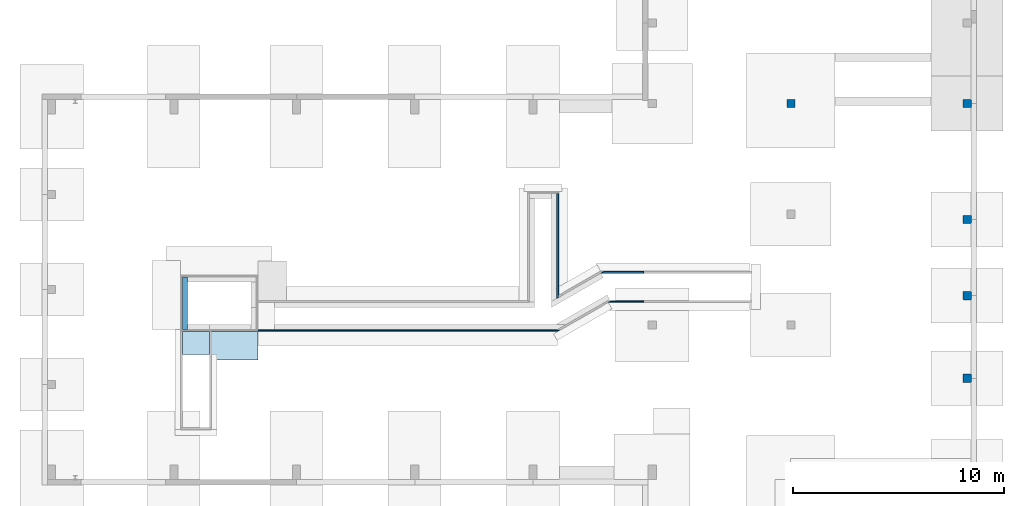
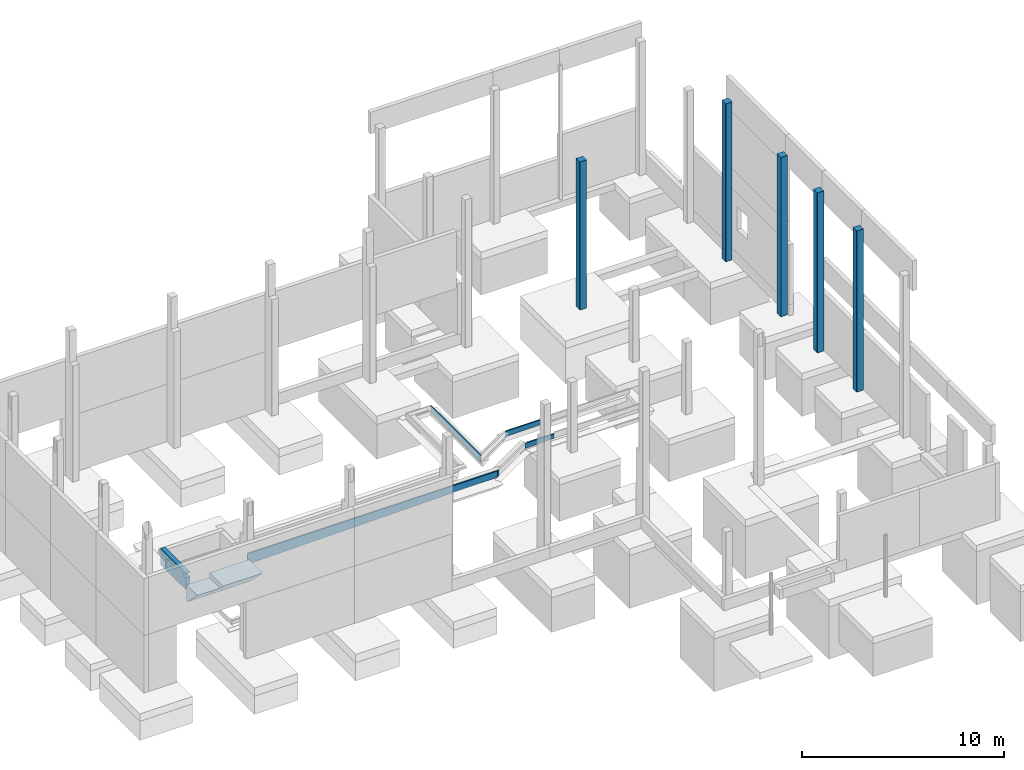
# One storey, part 12 of 12: 5 columns, 5 walls, 1 slab.
"""IFC4X3_ADD2 building model written with IfcOpenShell, lengths in millimetres."""

from ifc_helpers import new_model, si_unit, direction, frame, origin_with_axes, place, context, subcontext, project, spatial, polygons, element, save


model = new_model("IFC4X3_ADD2")

# Units and contexts
model_context = context("Model", 3, precision=1e-05, world=origin_with_axes(), true_north=direction((0.0, 1.0)))
body_context = subcontext(model_context, "Body", "Model", "MODEL_VIEW")
ifc_project = project(units=[si_unit("LENGTHUNIT", "METRE", prefix="MILLI"), si_unit("AREAUNIT", "SQUARE_METRE"), si_unit("VOLUMEUNIT", "CUBIC_METRE"), si_unit("PLANEANGLEUNIT", "RADIAN"), si_unit("TIMEUNIT", "SECOND"), si_unit("MASSUNIT", "GRAM")], contexts=[model_context])

# Site, building, storey
site_placement = place(None, origin_with_axes())
site = spatial("IfcSite", under=ifc_project, at=site_placement, Name="Site", CompositionType="ELEMENT")
building_placement = place(site_placement, origin_with_axes())
building = spatial("IfcBuilding", under=site, at=building_placement, Name="IFC Building Story")
storey_placement = place(building_placement, frame((0.0, 0.0, -800.0), z_axis=(0.0, 0.0, 1.0), x_axis=(1.0, 0.0, 0.0)))
storey = spatial("IfcBuildingStorey", under=building, at=storey_placement, Name="FOND 00 (0)", Elevation=-800.0)

# Columns
column_1_placement = place(storey_placement, frame((0.0, 0.0, 800.0), z_axis=(0.0, 0.0, 1.0), x_axis=(1.0, 0.0, 0.0)))
element("IfcColumn", 1, at=column_1_placement, inside=storey, Name="COLUMN", ObjectType="EB_CR_390*390*15", context=body_context, shape_type="Tessellation", body=[
    polygons([(48376.1886362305, 17999.9996109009, 8010.0), (48376.1886362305, 17999.9996109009, 8800.0), (48376.1886362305, 17981.99961090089, 8800.0), (48376.1886362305, 17981.99961090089, 8010.0), (48488.18863623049, 17981.99961090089, 8800.0), (48488.18863623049, 17981.99961090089, 8010.0), (48488.18863623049, 17999.9996109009, 8010.0), (48131.1886362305, 17999.9996109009, 8800.0), (48131.1886362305, 17999.9996109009, -760.0), (48116.1886362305, 17984.9996109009, -760.0), (48116.1886362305, 17984.9996109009, 8800.0), (48116.1886362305, 17624.9996109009, -760.0), (48116.1886362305, 17624.9996109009, 8800.0), (48131.1886362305, 17609.9996109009, -760.0), (48131.1886362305, 17609.9996109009, 8800.0), (48491.1886362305, 17609.9996109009, -760.0), (48491.1886362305, 17609.9996109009, 8800.0), (48506.1886362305, 17624.9996109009, -760.0), (48506.1886362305, 17624.9996109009, 8800.0), (48491.1886362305, 17999.9996109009, -760.0), (48506.1886362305, 17984.9996109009, -760.0), (48506.1886362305, 17984.9996109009, 8010.0), (48491.1886362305, 17999.9996109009, 8010.0), (48506.1886362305, 17981.99961090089, 8010.0), (48506.1886362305, 17869.9996109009, 8010.0), (48506.1886362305, 17869.9996109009, 8800.0), (48488.18863623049, 17869.9996109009, 8800.0), (48488.18863623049, 17869.9996109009, 8010.0)], [[[1, 2, 3, 4]], [[3, 5, 6, 4]], [[6, 7, 1, 4]], [[8, 9, 10, 11]], [[11, 10, 12, 13]], [[13, 12, 14, 15]], [[15, 14, 16, 17]], [[17, 16, 18, 19]], [[16, 14, 12]], [[16, 12, 10]], [[16, 10, 9]], [[16, 9, 20]], [[16, 20, 21]], [[16, 21, 18]], [[22, 21, 20, 23]], [[25, 26, 19]], [[25, 19, 18]], [[25, 18, 21]], [[21, 24, 25]], [[21, 22, 24]], [[27, 26, 25, 28]], [[24, 22, 23]], [[24, 23, 7]], [[24, 7, 6]], [[6, 28, 25]], [[6, 25, 24]], [[5, 27, 28, 6]], [[3, 2, 8]], [[3, 8, 11]], [[3, 11, 27]], [[27, 5, 3]], [[11, 13, 15]], [[11, 15, 17]], [[11, 17, 27]], [[17, 19, 26]], [[17, 26, 27]], [[7, 23, 20]], [[1, 7, 20]], [[20, 9, 8]], [[20, 8, 1]], [[8, 2, 1]]]),
])
column_2_placement = place(storey_placement, frame((0.0, 0.0, 800.0), z_axis=(0.0, 0.0, 1.0), x_axis=(1.0, 0.0, 0.0)))
element("IfcColumn", 2, at=column_2_placement, inside=storey, Name="COLUMN", ObjectType="EB_CR_390*390*15", context=body_context, shape_type="Tessellation", body=[
    polygons([(48488.18863623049, 4910.000610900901, 8990.0), (48488.18863623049, 4690.0006109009, 8990.0), (48488.18863623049, 4690.0006109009, 8190.0), (48488.18863623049, 4910.000610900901, 8190.0), (48506.1886362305, 4690.000610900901, 8990.0), (48506.1886362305, 4690.000610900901, 8190.0), (48506.1886362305, 4910.000610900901, 8190.0), (48506.1886362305, 4910.000610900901, 8990.0), (48491.1886362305, 4605.0006109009, -760.0), (48131.1886362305, 4605.0006109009, -760.0), (48116.1886362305, 4620.000610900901, -760.0), (48116.1886362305, 4980.0006109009, -760.0), (48131.1886362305, 4995.0006109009, -760.0), (48491.1886362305, 4995.0006109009, -760.0), (48506.1886362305, 4980.0006109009, -760.0), (48506.1886362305, 4620.000610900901, -760.0), (48491.1886362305, 4605.0006109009, 8990.0), (48506.1886362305, 4620.000610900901, 8990.0), (48131.1886362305, 4605.0006109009, 8990.0), (48116.1886362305, 4620.000610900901, 8990.0), (48116.1886362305, 4980.0006109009, 8990.0), (48131.1886362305, 4995.0006109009, 8990.0), (48491.1886362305, 4995.0006109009, 8990.0), (48506.1886362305, 4980.0006109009, 8990.0)], [[[1, 2, 3, 4]], [[2, 5, 6, 3]], [[6, 7, 4, 3]], [[7, 8, 1, 4]], [[9, 10, 11]], [[9, 11, 12]], [[9, 12, 13]], [[9, 13, 14]], [[9, 14, 15]], [[9, 15, 16]], [[17, 9, 16, 18]], [[19, 10, 9, 17]], [[20, 11, 10, 19]], [[21, 12, 11, 20]], [[22, 13, 12, 21]], [[23, 14, 13, 22]], [[24, 15, 14, 23]], [[6, 5, 18]], [[6, 18, 16]], [[16, 15, 7]], [[16, 7, 6]], [[15, 24, 7]], [[24, 8, 7]], [[1, 8, 24]], [[1, 24, 23]], [[1, 23, 22]], [[1, 22, 21]], [[21, 20, 2]], [[21, 2, 1]], [[20, 19, 17]], [[20, 17, 2]], [[17, 18, 5]], [[17, 5, 2]]]),
])
column_3_placement = place(storey_placement, frame((0.0, 0.0, 800.0), z_axis=(0.0, 0.0, 1.0), x_axis=(1.0, 0.0, 0.0)))
element("IfcColumn", 3, at=column_3_placement, inside=storey, Name="COLUMN", ObjectType="EB_CR_390*390*15", context=body_context, shape_type="Tessellation", body=[
    polygons([(48488.18863623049, 8820.0006109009, 8930.0), (48488.18863623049, 8600.000610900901, 8930.0), (48488.18863623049, 8600.000610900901, 8130.0), (48488.18863623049, 8820.0006109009, 8130.0), (48506.1886362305, 8600.000610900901, 8930.0), (48506.1886362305, 8600.000610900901, 8130.0), (48506.1886362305, 8820.0006109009, 8130.0), (48506.1886362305, 8820.000610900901, 8930.0), (48491.1886362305, 8515.0006109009, -760.0), (48131.1886362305, 8515.0006109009, -760.0), (48116.1886362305, 8530.000610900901, -760.0), (48116.1886362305, 8890.0006109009, -760.0), (48131.1886362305, 8905.0006109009, -760.0), (48491.1886362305, 8905.0006109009, -760.0), (48506.1886362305, 8890.0006109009, -760.0), (48506.1886362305, 8530.000610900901, -760.0), (48491.1886362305, 8515.0006109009, 8930.0), (48506.1886362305, 8530.000610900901, 8930.0), (48131.1886362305, 8515.0006109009, 8930.0), (48116.1886362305, 8530.000610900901, 8930.0), (48116.1886362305, 8890.0006109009, 8930.0), (48131.1886362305, 8905.0006109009, 8930.0), (48491.1886362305, 8905.0006109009, 8930.0), (48506.1886362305, 8890.000610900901, 8930.0)], [[[1, 2, 3, 4]], [[2, 5, 6, 3]], [[6, 7, 4, 3]], [[7, 8, 1, 4]], [[9, 10, 11]], [[9, 11, 12]], [[9, 12, 13]], [[9, 13, 14]], [[9, 14, 15]], [[9, 15, 16]], [[17, 9, 16, 18]], [[19, 10, 9, 17]], [[20, 11, 10, 19]], [[21, 12, 11, 20]], [[22, 13, 12, 21]], [[23, 14, 13, 22]], [[24, 15, 14, 23]], [[6, 5, 18]], [[6, 18, 16]], [[16, 15, 7]], [[16, 7, 6]], [[15, 24, 7]], [[24, 8, 7]], [[1, 8, 24]], [[1, 24, 23]], [[1, 23, 22]], [[1, 22, 21]], [[21, 20, 2]], [[21, 2, 1]], [[20, 19, 17]], [[20, 17, 2]], [[17, 18, 5]], [[17, 5, 2]]]),
])
column_4_placement = place(storey_placement, frame((0.0, 0.0, 800.0), z_axis=(0.0, 0.0, 1.0), x_axis=(1.0, 0.0, 0.0)))
element("IfcColumn", 4, at=column_4_placement, inside=storey, Name="COLUMN", ObjectType="EB_CR_390*390*15", context=body_context, shape_type="Tessellation", body=[
    polygons([(48488.18863623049, 12430.0006109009, 8880.0), (48488.18863623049, 12210.0006109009, 8880.0), (48488.18863623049, 12210.0006109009, 8080.0), (48488.18863623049, 12430.0006109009, 8080.0), (48506.1886362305, 12210.0006109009, 8880.0), (48506.1886362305, 12210.0006109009, 8080.0), (48506.1886362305, 12430.0006109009, 8080.0), (48506.1886362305, 12430.0006109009, 8880.0), (48491.1886362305, 12125.0006109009, -760.0), (48131.1886362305, 12125.0006109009, -760.0), (48116.1886362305, 12140.0006109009, -760.0), (48116.1886362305, 12500.0006109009, -760.0), (48131.1886362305, 12515.0006109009, -760.0), (48491.1886362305, 12515.0006109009, -760.0), (48506.1886362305, 12500.0006109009, -760.0), (48506.1886362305, 12140.0006109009, -760.0), (48491.1886362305, 12125.0006109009, 8880.0), (48506.1886362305, 12140.0006109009, 8880.0), (48131.1886362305, 12125.0006109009, 8880.0), (48116.1886362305, 12140.0006109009, 8880.0), (48116.1886362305, 12500.0006109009, 8880.0), (48131.1886362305, 12515.0006109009, 8880.0), (48491.1886362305, 12515.0006109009, 8880.0), (48506.1886362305, 12500.0006109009, 8880.0)], [[[1, 2, 3, 4]], [[2, 5, 6, 3]], [[6, 7, 4, 3]], [[7, 8, 1, 4]], [[9, 10, 11]], [[9, 11, 12]], [[9, 12, 13]], [[9, 13, 14]], [[9, 14, 15]], [[9, 15, 16]], [[17, 9, 16, 18]], [[19, 10, 9, 17]], [[20, 11, 10, 19]], [[21, 12, 11, 20]], [[22, 13, 12, 21]], [[23, 14, 13, 22]], [[24, 15, 14, 23]], [[6, 5, 18]], [[6, 18, 16]], [[16, 15, 7]], [[16, 7, 6]], [[15, 24, 7]], [[24, 8, 7]], [[1, 8, 24]], [[1, 24, 23]], [[1, 23, 22]], [[1, 22, 21]], [[21, 20, 2]], [[21, 2, 1]], [[20, 19, 17]], [[20, 17, 2]], [[17, 18, 5]], [[17, 5, 2]]]),
])
column_5_placement = place(storey_placement, frame((0.0, 0.0, 800.0), z_axis=(0.0, 0.0, 1.0), x_axis=(1.0, 0.0, 0.0)))
element("IfcColumn", 5, at=column_5_placement, inside=storey, Name="COLUMN", ObjectType="EB_CR_390*390*15", context=body_context, shape_type="Tessellation", body=[
    polygons([(40076.189, 18000.0, 7399.94999999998), (39856.18899999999, 18000.0, 7399.94999999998), (39856.18899999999, 17982.0, 7399.94999999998), (40076.189, 17982.0, 7399.94999999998), (39856.189, 18000.0, 8200.0), (39856.189, 17982.0, 8199.949999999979), (40076.189, 17982.0, 8199.949999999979), (40076.189, 18000.0, 8199.949999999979), (39786.189, 18000.0, 8200.0), (39786.189, 18000.0, -760.0), (39771.18899999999, 17985.0, -760.0), (39771.18899999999, 17985.0, 8200.0), (39771.189, 17625.0, -760.0), (39771.189, 17625.0, 8200.0), (39786.189, 17610.0, -760.0), (39786.189, 17610.0, 8200.0), (40146.189, 17610.0, -760.0), (40146.18900000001, 17610.0, 8200.0), (40161.1889994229, 17625.0, 8200.0), (40161.1889994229, 17625.0, -760.0), (40161.1889994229, 17985.0, -760.0), (40161.1889994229, 17985.0, 8200.0), (40146.189, 18000.0, -760.0), (40146.18900000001, 18000.0, 8200.0), (39856.18900009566, 17999.99998400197, 8200.0057417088), (39771.1889994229, 17985.00009650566, 8199.9653640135), (39771.18900006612, 17625.00288243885, 8198.96230986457), (39786.18900005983, 17610.00299923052, 8198.92026601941), (40146.18899995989, 17610.00301594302, 8198.9142678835), (40161.1889994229, 17625.00290054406, 8198.955811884), (40146.18900001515, 17999.99999746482, 8200.00090987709), (40076.18900086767, 17999.9998549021, 8200.00207579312), (39786.18900011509, 17999.99998075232, 8200.006908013)], [[[1, 2, 3, 4]], [[2, 5, 6, 3]], [[6, 7, 4, 3]], [[7, 8, 1, 4]], [[9, 10, 11, 12]], [[12, 11, 13, 14]], [[14, 13, 15, 16]], [[16, 15, 17, 18]], [[19, 20, 21, 22]], [[18, 17, 20, 19]], [[17, 15, 13]], [[17, 13, 11]], [[17, 11, 10]], [[17, 10, 23]], [[17, 23, 21]], [[17, 21, 20]], [[22, 21, 23, 24]], [[6, 25, 9]], [[6, 9, 26]], [[6, 26, 27]], [[6, 27, 28]], [[28, 29, 7]], [[28, 7, 6]], [[29, 30, 22]], [[29, 22, 7]], [[22, 31, 8]], [[22, 8, 7]], [[1, 32, 24]], [[1, 24, 23]], [[23, 10, 2]], [[23, 2, 1]], [[10, 33, 2]], [[33, 5, 2]]]),
])

# Slab
slab_placement = place(storey_placement, frame((0.0, 0.0, 800.0), z_axis=(0.0, 0.0, 1.0), x_axis=(1.0, 0.0, 0.0)))
element("IfcSlab", 6, at=slab_placement, inside=storey, Name="Remblai 1:Remblai 1", ObjectType="Remblai 1:Remblai 1", PredefinedType="FLOOR", context=body_context, shape_type="Tessellation", body=[
    polygons([(14731.6894781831, 7020.00000000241, -660.0), (14731.6894781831, 5670.0033344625, -660.0), (14731.6894781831, 6920.0033344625, -1910.0), (14731.6894781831, 7020.00000000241, -1910.0), (14731.6894781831, 7020.00000000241, -1303.439852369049), (14731.6894781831, 7020.00000000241, -1003.439852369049), (11151.6894781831, 7020.00000000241, -1910.0), (11151.6894781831, 6920.0033344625, -1910.0), (11151.6894781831, 5926.967378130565, -916.964043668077), (11151.6894781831, 7020.00000000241, -940.0), (12451.6894781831, 7020.00000000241, -940.0), (12451.6894781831, 7020.00000000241, -660.0), (12451.6894781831, 5670.0033344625, -660.0), (12451.6894781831, 5926.967378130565, -916.964043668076)], [[[6, 1, 2]], [[6, 2, 3]], [[3, 5, 6]], [[3, 4, 5]], [[7, 8, 9, 10]], [[6, 5, 11]], [[11, 12, 1]], [[11, 1, 6]], [[5, 4, 7]], [[5, 7, 10]], [[5, 10, 11]], [[2, 1, 12, 13]], [[14, 9, 8]], [[8, 3, 2]], [[8, 2, 14]], [[2, 13, 14]], [[4, 3, 8, 7]], [[11, 14, 13, 12]], [[14, 11, 10, 9]]]),
])

# Walls
wall_1_placement = place(storey_placement, frame((0.0, 0.0, 800.0), z_axis=(0.0, 0.0, 1.0), x_axis=(1.0, 0.0, 0.0)))
element("IfcWall", 7, at=wall_1_placement, inside=storey, Name="Mur de base:BS_28_WA_BTcoulé250", ObjectType="Mur de base:BS_28_WA_BTcoulé250", context=body_context, shape_type="Tessellation", body=[
    polygons([(11401.6894781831, 7100.0, -1280.0), (11401.6894781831, 7350.0, -1280.0), (11401.6894781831, 9350.0, -1280.0), (11401.6894781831, 9600.0, -1280.0), (11401.6894781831, 9600.0, -660.0), (11401.6894781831, 9600.0, -360.0), (11401.6894781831, 9600.0, -280.0), (11401.6894781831, 9350.0, -280.0), (11401.6894781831, 7100.0, -280.0), (11401.6894781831, 7100.0, -305.0), (11401.6894781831, 7350.0, -310.0), (11401.6894781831, 7350.0, -560.0), (11401.6894781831, 7100.0, -555.0), (11151.6894781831, 9600.0, -1280.0), (11151.6894781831, 7100.0, -1280.0), (11151.6894781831, 7100.0, -660.0), (11151.6894781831, 7100.0, -555.0), (11151.6894781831, 7350.0, -560.0), (11151.6894781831, 7350.0, -310.0), (11151.6894781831, 7100.0, -305.0), (11151.6894781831, 7100.0, -280.0), (11151.6894781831, 9600.0, -280.0), (11151.6894781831, 9600.0, -360.0), (11151.6894781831, 9600.0, -660.0)], [[[6, 7, 8]], [[8, 5, 6]], [[8, 3, 4]], [[8, 4, 5]], [[12, 2, 3]], [[12, 3, 8]], [[8, 11, 12]], [[8, 9, 11]], [[9, 10, 11]], [[12, 13, 1]], [[12, 1, 2]], [[19, 20, 21]], [[23, 24, 18]], [[23, 18, 19]], [[19, 21, 22]], [[22, 23, 19]], [[24, 16, 18]], [[16, 17, 18]], [[24, 14, 15]], [[24, 15, 16]], [[2, 1, 15]], [[15, 14, 3]], [[15, 3, 2]], [[14, 4, 3]], [[23, 22, 7]], [[23, 7, 6]], [[6, 5, 24]], [[6, 24, 23]], [[5, 4, 14]], [[5, 14, 24]], [[9, 21, 20, 10]], [[8, 7, 22]], [[22, 21, 9]], [[22, 9, 8]], [[11, 19, 18, 12]], [[19, 11, 10, 20]], [[12, 18, 17, 13]], [[16, 15, 1]], [[16, 1, 13]], [[13, 17, 16]]]),
])
wall_2_placement = place(storey_placement, frame((0.0, 0.0, 800.0), z_axis=(0.0, 0.0, 1.0), x_axis=(1.0, 0.0, 0.0)))
element("IfcWall", 8, at=wall_2_placement, inside=storey, Name="Mur de base:BS_13_WA_XPS80", ObjectType="Mur de base:BS_13_WA_XPS80", context=body_context, shape_type="Tessellation", body=[
    polygons([(28966.6894781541, 8629.200723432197, -660.9784060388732), (28966.6894781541, 13551.63039487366, -559.22684018), (28966.6894781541, 13551.63039487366, -280.0), (28966.6894781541, 8721.576766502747, -280.0), (28966.6894781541, 8629.200723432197, -280.0), (28966.6894781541, 8629.200723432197, -645.4190272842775), (28886.6894781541, 8583.012701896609, -661.933158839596), (28886.6894781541, 8583.012701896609, -280.0), (28886.6894781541, 13551.63039487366, -280.0), (28886.6894781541, 13551.63039487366, -559.22684018)], [[[6, 1, 4]], [[4, 5, 6]], [[1, 2, 3]], [[1, 3, 4]], [[7, 8, 9, 10]], [[2, 1, 7, 10]], [[4, 3, 9]], [[4, 9, 8]], [[8, 5, 4]], [[3, 2, 10, 9]], [[6, 5, 8]], [[6, 8, 7]], [[7, 1, 6]]]),
])
wall_3_placement = place(storey_placement, frame((0.0, 0.0, 800.0), z_axis=(0.0, 0.0, 1.0), x_axis=(1.0, 0.0, 0.0)))
element("IfcWall", 9, at=wall_3_placement, inside=storey, Name="Mur de base:BS_13_WA_XPS80", ObjectType="Mur de base:BS_13_WA_XPS80", context=body_context, shape_type="Tessellation", body=[
    polygons([(30959.8778879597, 9779.96858838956, -593.208893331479), (32991.68947816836, 9779.96858838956, -549.9999999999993), (32991.68947816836, 9779.96858838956, -549.2341742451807), (32991.68947816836, 9779.96858838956, -279.999999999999), (30959.8778879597, 9779.96858838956, -279.999999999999), (31098.44195256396, 9859.96858838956, -590.2621634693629), (31098.44195256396, 9859.96858838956, -588.1973761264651), (31098.44195256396, 9859.96858838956, -279.999999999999), (32991.68947816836, 9859.96858838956, -279.999999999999), (32991.68947816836, 9859.96858838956, -549.2341742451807), (32991.68947816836, 9859.96858838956, -549.9999999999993)], [[[3, 4, 5]], [[3, 5, 1]], [[1, 2, 3]], [[10, 11, 7]], [[7, 8, 9]], [[7, 9, 10]], [[11, 6, 7]], [[7, 6, 1]], [[1, 5, 8]], [[1, 8, 7]], [[2, 1, 6, 11]], [[3, 2, 11]], [[3, 11, 10]], [[10, 9, 4]], [[10, 4, 3]], [[5, 4, 9, 8]]]),
])
wall_4_placement = place(storey_placement, frame((0.0, 0.0, 800.0), z_axis=(0.0, 0.0, 1.0), x_axis=(1.0, 0.0, 0.0)))
element("IfcWall", 10, at=wall_4_placement, inside=storey, Name="Mur de base:BS_13_WA_XPS80", ObjectType="Mur de base:BS_13_WA_XPS80", context=body_context, shape_type="Tessellation", body=[
    polygons([(14651.689478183, 7020.0, -924.106637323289), (28939.4720655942, 7020.0, -658.570016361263), (28939.4720655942, 7020.0, -280.0), (14651.689478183, 7020.0, -280.0), (14651.689478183, 7100.0, -924.106637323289), (14651.689478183, 7100.0, -280.0), (28918.0361301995, 7100.0, -280.0), (29078.0361301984, 7100.0, -280.0), (29078.0361301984, 7100.0, -637.626066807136), (29078.0361301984, 7100.0, -655.994820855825)], [[[1, 2, 3, 4]], [[9, 10, 7]], [[7, 8, 9]], [[10, 5, 6]], [[10, 6, 7]], [[2, 1, 5, 10]], [[7, 6, 4]], [[7, 4, 3]], [[3, 8, 7]], [[1, 4, 6, 5]], [[9, 8, 3]], [[9, 3, 2]], [[2, 10, 9]]]),
])
wall_5_placement = place(storey_placement, frame((0.0, 0.0, 800.0), z_axis=(0.0, 0.0, 1.0), x_axis=(1.0, 0.0, 0.0)))
element("IfcWall", 11, at=wall_5_placement, inside=storey, Name="Mur de base:BS_13_WA_XPS80", ObjectType="Mur de base:BS_13_WA_XPS80", context=body_context, shape_type="Tessellation", body=[
    polygons([(31329.7565865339, 8400.03141161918, -585.798828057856), (32991.68947816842, 8400.03141161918, -549.9999999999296), (32991.68947816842, 8400.03141161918, -549.2341742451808), (32991.68947816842, 8400.03141161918, -279.999999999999), (31329.7565865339, 8400.03141161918, -279.999999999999), (31468.32065113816, 8480.03141161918, -582.8140919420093), (31468.32065113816, 8480.03141161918, -576.061468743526), (31468.32065113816, 8480.03141161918, -279.999999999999), (32991.68947816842, 8480.03141161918, -279.999999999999), (32991.68947816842, 8480.03141161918, -549.2341742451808), (32991.68947816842, 8480.03141161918, -549.9999999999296)], [[[3, 4, 5]], [[3, 5, 1]], [[1, 2, 3]], [[10, 11, 7]], [[7, 8, 9]], [[7, 9, 10]], [[11, 6, 7]], [[2, 1, 6, 11]], [[3, 2, 11]], [[3, 11, 10]], [[10, 9, 4]], [[10, 4, 3]], [[5, 4, 9, 8]], [[7, 6, 1]], [[1, 5, 8]], [[1, 8, 7]]]),
])

save(model, "model.ifc")
